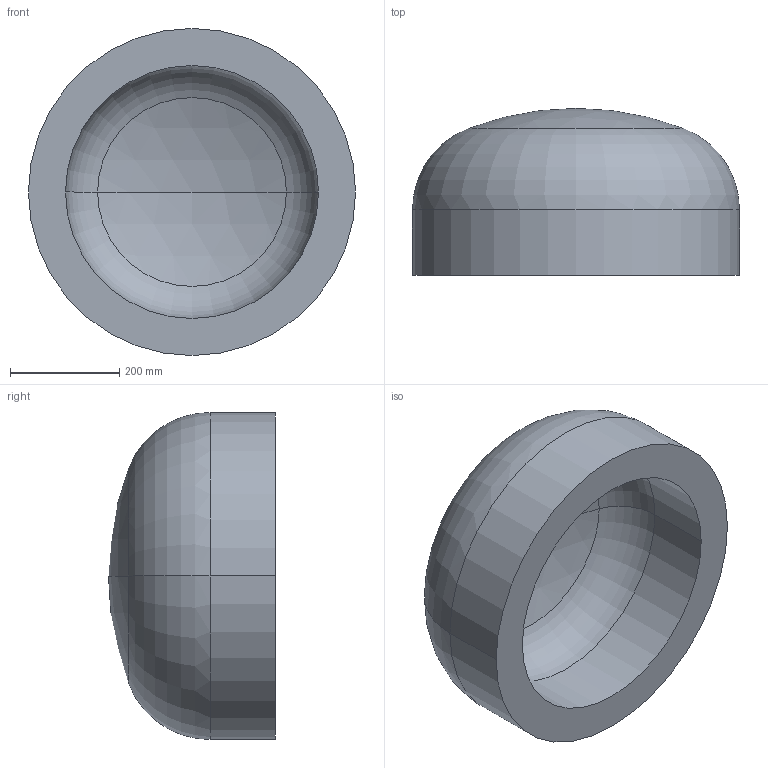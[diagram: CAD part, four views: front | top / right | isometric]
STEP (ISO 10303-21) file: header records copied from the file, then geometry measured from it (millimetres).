
FILE_DESCRIPTION (( 'STEP AP203' ), '1' );
FILE_NAME ('DIN 28013 Korbbogenform_-_Boden DIN 28013 - 600 x 120 - I - s=68.step', '2016-07-01T08:02:31', ( '' ), ( '' ), 'SwSTEP 2.0', 'SolidWorks 2013', '' );
FILE_SCHEMA (( 'CONFIG_CONTROL_DESIGN' ));
Length unit declared in the file: millimetre
Products named in the file (1): DIN 28013 Korbbogenform_-_Boden DIN 28013 - 600 x 120 - I - s=68
Bounding box: 600 x 306.14 x 600 mm (x, y, z)
Volume: 36789674.4 mm3; surface area: 1205383.9 mm2
Topology: 1 solids, 1 shells, 13 faces, 24 edges, 14 vertices
Faces by surface type: torus 4, cylinder 4, sphere 4, plane 1
Entity records: 407 total; most frequent: DIRECTION 72, CARTESIAN_POINT 52, ORIENTED_EDGE 48, AXIS2_PLACEMENT_3D 34, EDGE_CURVE 24, CIRCLE 20, EDGE_LOOP 14, VERTEX_POINT 14
